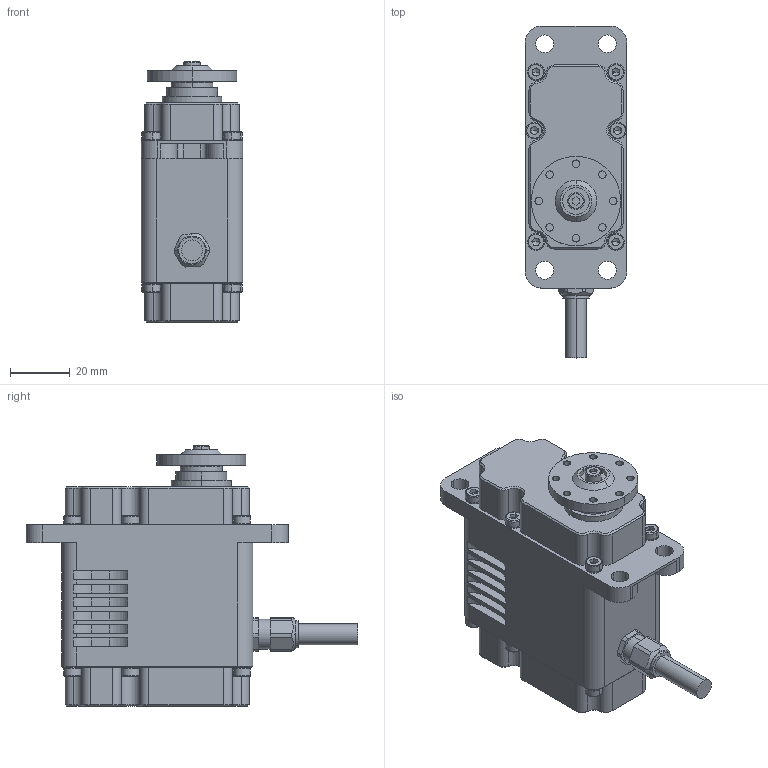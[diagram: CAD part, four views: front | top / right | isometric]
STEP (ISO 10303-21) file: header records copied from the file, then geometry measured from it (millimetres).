
FILE_DESCRIPTION (( 'STEP AP203' ), '1' );
FILE_NAME ('AJ9DA41_42_51_52(3D).STEP', '2022-12-06T01:37:08', ( '' ), ( '' ), 'SwSTEP 2.0', 'SolidWorks 2022', '' );
FILE_SCHEMA (( 'CONFIG_CONTROL_DESIGN' ));
Length unit declared in the file: millimetre
Products named in the file (4): AJ9DA41_42_51_52; SCREW M3x8; AJ9DA41_42_51_52(3D); HORN
Assembly tree (3 placements, depth 2):
  AJ9DA41_42_51_52(3D)
    AJ9DA41_42_51_52
    HORN
    SCREW M3x8
Bounding box: 34 x 111.4 x 87.35 mm (x, y, z)
Volume: 155973.3 mm3; surface area: 26987.7 mm2
Topology: 3 solids, 3 shells, 634 faces, 1631 edges, 1026 vertices
Faces by surface type: plane 322, cylinder 205, cone 79, bspline 24, torus 4
Entity records: 22267 total; most frequent: CARTESIAN_POINT 6192, DIRECTION 3431, ORIENTED_EDGE 3208, EDGE_CURVE 1604, AXIS2_PLACEMENT_3D 1284, VERTEX_POINT 1026, VECTOR 863, LINE 863
